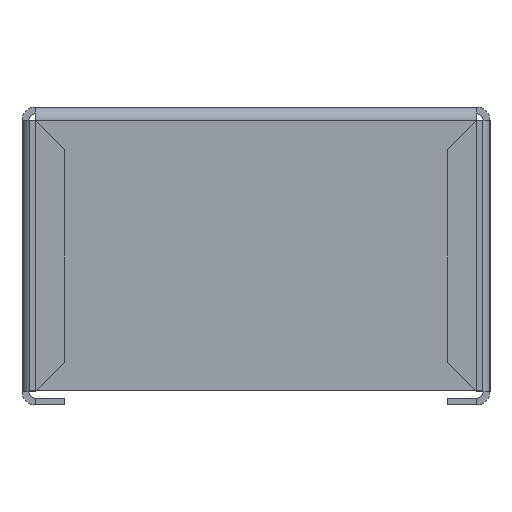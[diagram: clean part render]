
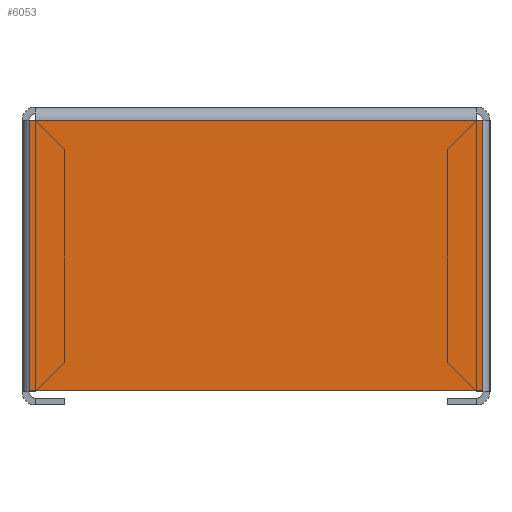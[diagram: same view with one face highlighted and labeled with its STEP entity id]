
A CAD part, left-side view. The second image highlights one B-rep face of the part: STEP entity #6053.
In plain terms, the highlighted planar face has unit normal (-1, 0, 0).
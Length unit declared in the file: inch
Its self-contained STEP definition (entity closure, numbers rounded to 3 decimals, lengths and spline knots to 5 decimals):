
#5903=CARTESIAN_POINT('',(0.,4.00689,-0.11811));
#5904=VERTEX_POINT('',#5903);
#5960=CARTESIAN_POINT('',(0.,0.06323,-2.5));
#5961=VERTEX_POINT('',#5960);
#5968=CARTESIAN_POINT('',(0.,4.06177,-2.5));
#5969=VERTEX_POINT('',#5968);
#5970=CARTESIAN_POINT('',(0.,0.06323,-2.5));
#5971=DIRECTION('',(0.0,1.0,0.0));
#5972=VECTOR('',#5971,3.99854);
#5973=LINE('',#5970,#5972);
#5974=EDGE_CURVE('',#5961,#5969,#5973,.T.);
#5998=CARTESIAN_POINT('',(0.,4.06177,-0.11811));
#5999=VERTEX_POINT('',#5998);
#6006=CARTESIAN_POINT('',(0.0,4.00689,-0.11811));
#6007=DIRECTION('',(0.0,1.0,0.0));
#6008=VECTOR('',#6007,0.05488);
#6009=LINE('',#6006,#6008);
#6010=EDGE_CURVE('',#5904,#5999,#6009,.T.);
#6016=CARTESIAN_POINT('',(0.,2.45017,-1.30906));
#6017=DIRECTION('',(1.0,0.0,0.0));
#6018=DIRECTION('',(0.0,0.0,-1.0));
#6019=AXIS2_PLACEMENT_3D('',#6016,#6017,#6018);
#6020=PLANE('',#6019);
#6021=ORIENTED_EDGE('',*,*,#6010,.T.);
#6022=CARTESIAN_POINT('',(0.,4.06177,-0.11811));
#6023=DIRECTION('',(0.0,0.0,-1.0));
#6024=VECTOR('',#6023,2.38189);
#6025=LINE('',#6022,#6024);
#6026=EDGE_CURVE('',#5999,#5969,#6025,.T.);
#6027=ORIENTED_EDGE('',*,*,#6026,.T.);
#6028=ORIENTED_EDGE('',*,*,#5974,.F.);
#6029=CARTESIAN_POINT('',(0.,0.06323,-0.11811));
#6030=VERTEX_POINT('',#6029);
#6031=CARTESIAN_POINT('',(0.,0.06323,-0.11811));
#6032=DIRECTION('',(0.0,0.0,-1.0));
#6033=VECTOR('',#6032,2.38189);
#6034=LINE('',#6031,#6033);
#6035=EDGE_CURVE('',#6030,#5961,#6034,.T.);
#6036=ORIENTED_EDGE('',*,*,#6035,.F.);
#6037=CARTESIAN_POINT('',(0.,0.11811,-0.11811));
#6038=VERTEX_POINT('',#6037);
#6039=CARTESIAN_POINT('',(0.0,0.06323,-0.11811));
#6040=DIRECTION('',(0.0,1.0,0.0));
#6041=VECTOR('',#6040,0.05488);
#6042=LINE('',#6039,#6041);
#6043=EDGE_CURVE('',#6030,#6038,#6042,.T.);
#6044=ORIENTED_EDGE('',*,*,#6043,.T.);
#6045=CARTESIAN_POINT('',(0.,0.11811,-0.11811));
#6046=DIRECTION('',(0.0,1.0,0.0));
#6047=VECTOR('',#6046,3.88878);
#6048=LINE('',#6045,#6047);
#6049=EDGE_CURVE('',#6038,#5904,#6048,.T.);
#6050=ORIENTED_EDGE('',*,*,#6049,.T.);
#6051=EDGE_LOOP('',(#6021,#6027,#6028,#6036,#6044,#6050));
#6052=FACE_OUTER_BOUND('',#6051,.T.);
#6053=ADVANCED_FACE('',(#6052),#6020,.F.);
